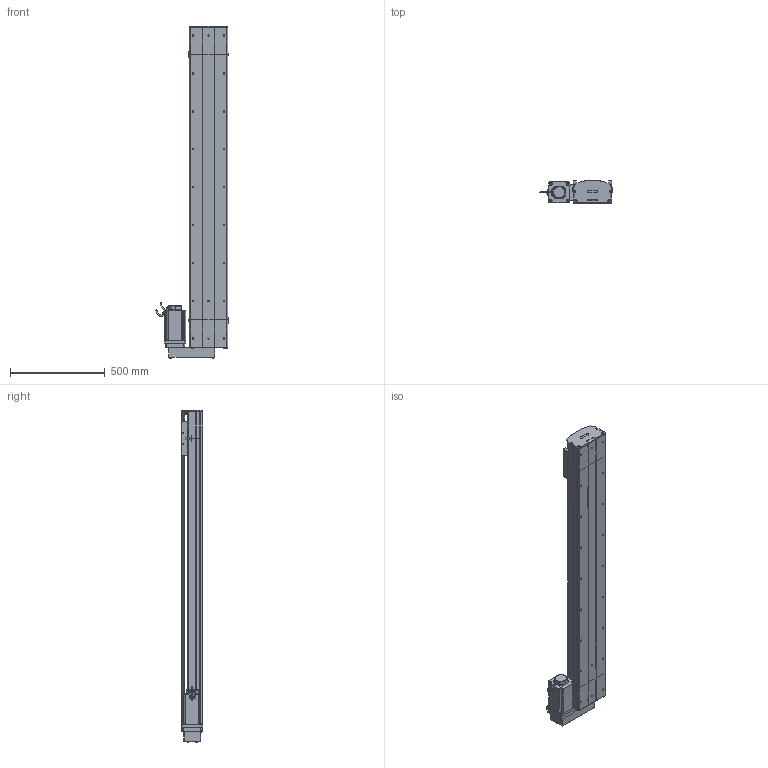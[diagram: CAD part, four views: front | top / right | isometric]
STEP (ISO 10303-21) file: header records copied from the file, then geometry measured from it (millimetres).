
FILE_DESCRIPTION (( 'STEP AP214' ), '1' );
FILE_NAME ('D20 TSH BL S1400.STEP', '2010-06-30T08:46:12', ( 'Conseil Régional Haute-Normandie' ), ( 'Conseil Régional Haute-Normandie' ), 'SwSTEP 2.0', 'SolidWorks 2010', '' );
FILE_SCHEMA (( 'AUTOMOTIVE_DESIGN' ));
Length unit declared in the file: millimetre
Products named in the file (35): corp D20 S1400_Default; tete d''axe bas D20; Conecteur2_Default; couvercle head l D20_Default; couvercle D20 S1400_Default; Moteur motionking 110BLDC170A-640x; codeur 110BLDC170A-630x; avant 110BLDC170A-630x; corpl tail D20_Default; Arbre+rail head D20; Plaque racord D20_Default; Conecteur_Default; plaque de  bout head BR D20_Default; corpl head MD D20_Default; clavette; vis M8 L12_Default; vis M5 L70_Default; renvoi  BR_Default; rail + arbre  D20 S1400; corps 110BLDC170A-630x; head BL D20_Default; tail D20 S_Default; vis M5 L12_Default; plaque de  bout tail D20_Default; Arbre+rail tail D20; tete d''axe haut D20; guide D20; vis M5 L25_Default; vis M5 L8 90°_Default; Chariot D20; chariot D20S_Default; couvercle tail D20_Default; 2 vis M5 L12_Default; D20 TSH BL S1400; course D20 L1400_Default
Assembly tree (59 placements, depth 4):
  D20 TSH BL S1400
    chariot D20S_Default
      vis M5 L12_Default  x4
      guide D20  x2
      Chariot D20
    course D20 L1400_Default
      couvercle D20 S1400_Default
      corp D20 S1400_Default
      rail + arbre  D20 S1400
    tail D20 S_Default
      vis M5 L8 90°_Default  x2
      2 vis M5 L12_Default  x4
      tete d''axe haut D20
      couvercle tail D20_Default
      corpl tail D20_Default
      Arbre+rail tail D20
      vis M5 L25_Default  x2
      plaque de  bout tail D20_Default
      tete d''axe bas D20
    head BL D20_Default
      vis M8 L12_Default  x4
      vis M5 L25_Default  x2
      vis M5 L12_Default  x2
      2 vis M5 L12_Default  x6
      vis M5 L70_Default  x4
      plaque de  bout head BR D20_Default
      renvoi  BR_Default
      Arbre+rail head D20
      Plaque racord D20_Default
      corpl head MD D20_Default
      couvercle head l D20_Default
      Moteur motionking 110BLDC170A-640x
        Conecteur_Default
        codeur 110BLDC170A-630x
        clavette
        corps 110BLDC170A-630x
        Conecteur2_Default
        avant 110BLDC170A-630x
Bounding box: 380 x 115.7 x 1751.7 mm (x, y, z)
Volume: 15944235 mm3; surface area: 3400716.5 mm2
Topology: 84 solids, 84 shells, 2362 faces, 5987 edges, 3869 vertices
Faces by surface type: plane 1386, cylinder 688, bspline 136, torus 77, cone 71, sphere 4
Entity records: 77760 total; most frequent: CARTESIAN_POINT 25680, ORIENTED_EDGE 9270, DIRECTION 8700, EDGE_CURVE 4635, VERTEX_POINT 3051, VECTOR 3014, LINE 3014, AXIS2_PLACEMENT_3D 2843
